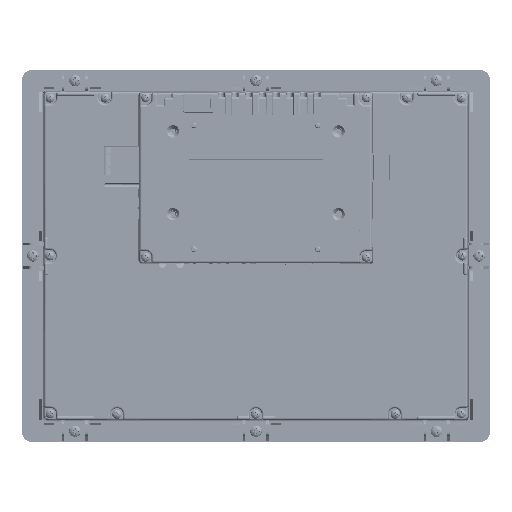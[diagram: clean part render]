
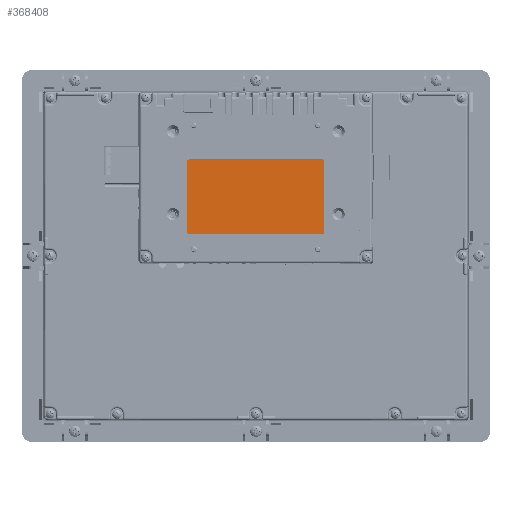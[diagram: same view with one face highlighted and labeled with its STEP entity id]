
A CAD part, top view. The second image highlights one B-rep face of the part: STEP entity #368408.
In plain terms, the highlighted planar face has unit normal (0, 0, 1).
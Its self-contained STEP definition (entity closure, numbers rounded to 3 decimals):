
#18763=LINE('',#592099,#58846);
#18764=LINE('',#592100,#58847);
#18765=LINE('',#592101,#58848);
#18766=LINE('',#592105,#58849);
#58846=VECTOR('',#463209,1000.);
#58847=VECTOR('',#463210,1000.);
#58848=VECTOR('',#463211,1000.);
#58849=VECTOR('',#463214,1000.);
#102981=ORIENTED_EDGE('',*,*,#212982,.T.);
#102982=ORIENTED_EDGE('',*,*,#212983,.T.);
#102983=ORIENTED_EDGE('',*,*,#211947,.T.);
#102984=ORIENTED_EDGE('',*,*,#212984,.F.);
#102985=ORIENTED_EDGE('',*,*,#211924,.F.);
#102986=ORIENTED_EDGE('',*,*,#212985,.F.);
#102987=ORIENTED_EDGE('',*,*,#212986,.F.);
#102988=ORIENTED_EDGE('',*,*,#212987,.F.);
#211924=EDGE_CURVE('',#267240,#267241,#301840,.T.);
#211947=EDGE_CURVE('',#267256,#267257,#301843,.T.);
#212982=EDGE_CURVE('',#268013,#268014,#301929,.T.);
#212983=EDGE_CURVE('',#268014,#267256,#18763,.T.);
#212984=EDGE_CURVE('',#267241,#267257,#18764,.T.);
#212985=EDGE_CURVE('',#268015,#267240,#18765,.T.);
#212986=EDGE_CURVE('',#268016,#268015,#301930,.T.);
#212987=EDGE_CURVE('',#268013,#268016,#18766,.T.);
#267240=VERTEX_POINT('',#586473);
#267241=VERTEX_POINT('',#586474);
#267256=VERTEX_POINT('',#586602);
#267257=VERTEX_POINT('',#586604);
#268013=VERTEX_POINT('',#592097);
#268014=VERTEX_POINT('',#592098);
#268015=VERTEX_POINT('',#592102);
#268016=VERTEX_POINT('',#592104);
#301840=CIRCLE('',#428829,1.27);
#301843=CIRCLE('',#428838,1.27);
#301929=CIRCLE('',#429176,1.27);
#301930=CIRCLE('',#429177,1.27);
#311117=EDGE_LOOP('',(#102981,#102982,#102983,#102984,#102985,#102986,#102987,
#102988));
#333166=FACE_BOUND('',#311117,.T.);
#354399=PLANE('',#429175);
#368408=ADVANCED_FACE('',(#333166),#354399,.T.);
#428829=AXIS2_PLACEMENT_3D('',#586472,#461698,#461699);
#428838=AXIS2_PLACEMENT_3D('',#586605,#461731,#461732);
#429175=AXIS2_PLACEMENT_3D('',#592095,#463205,#463206);
#429176=AXIS2_PLACEMENT_3D('',#592096,#463207,#463208);
#429177=AXIS2_PLACEMENT_3D('',#592103,#463212,#463213);
#461698=DIRECTION('',(0.,0.,-1.));
#461699=DIRECTION('',(1.,0.,0.));
#461731=DIRECTION('',(0.,0.,1.));
#461732=DIRECTION('',(1.,0.,0.));
#463205=DIRECTION('',(0.,0.,1.));
#463206=DIRECTION('',(1.,0.,0.));
#463207=DIRECTION('',(0.,0.,1.));
#463208=DIRECTION('',(1.,0.,0.));
#463209=DIRECTION('',(1.,0.,0.));
#463210=DIRECTION('',(0.,-1.,0.));
#463211=DIRECTION('',(1.,0.,0.));
#463212=DIRECTION('',(0.,0.,-1.));
#463213=DIRECTION('',(1.,0.,0.));
#463214=DIRECTION('',(0.,1.,0.));
#586472=CARTESIAN_POINT('',(40.259,56.98,31.876));
#586473=CARTESIAN_POINT('',(40.259,58.25,31.876));
#586474=CARTESIAN_POINT('',(41.529,56.98,31.876));
#586602=CARTESIAN_POINT('',(40.259,13.292,31.876));
#586604=CARTESIAN_POINT('',(41.529,14.562,31.876));
#586605=CARTESIAN_POINT('',(40.259,14.562,31.876));
#592095=CARTESIAN_POINT('',(30.362,18.205,31.876));
#592096=CARTESIAN_POINT('',(-40.259,14.562,31.876));
#592097=CARTESIAN_POINT('',(-41.529,14.562,31.876));
#592098=CARTESIAN_POINT('',(-40.259,13.292,31.876));
#592099=CARTESIAN_POINT('',(0.,13.292,31.876));
#592100=CARTESIAN_POINT('',(41.529,18.205,31.876));
#592101=CARTESIAN_POINT('',(30.362,58.25,31.876));
#592102=CARTESIAN_POINT('',(-40.259,58.25,31.876));
#592103=CARTESIAN_POINT('',(-40.259,56.98,31.876));
#592104=CARTESIAN_POINT('',(-41.529,56.98,31.876));
#592105=CARTESIAN_POINT('',(-41.529,18.205,31.876));
